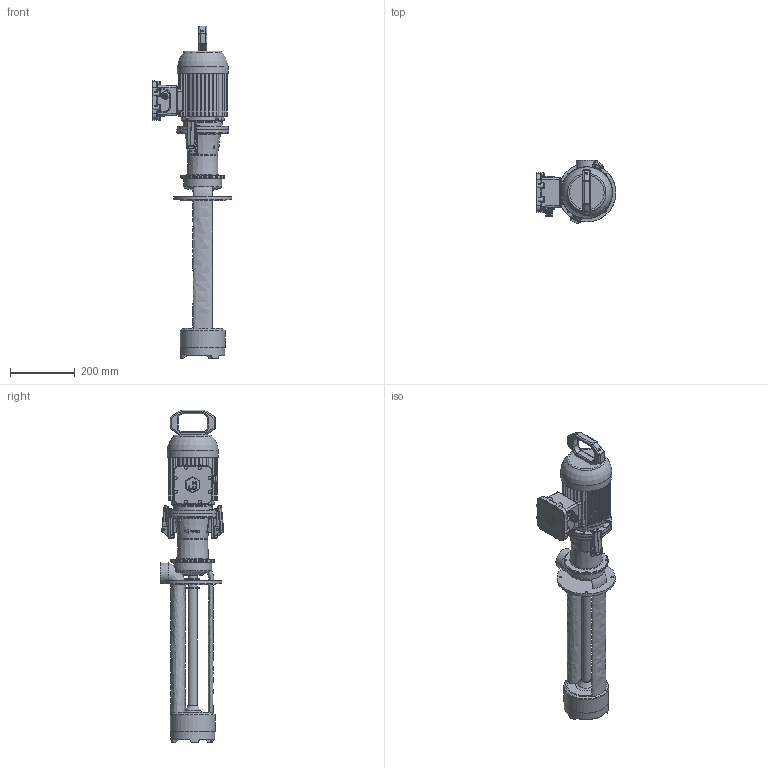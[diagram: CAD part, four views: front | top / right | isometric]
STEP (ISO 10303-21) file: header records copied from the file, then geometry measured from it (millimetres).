
FILE_DESCRIPTION(/* description */ ('Unknown'),/* implementation_level */ '2;1');
FILE_NAME(/* name */ 'EP EX 252-490',/* time_stamp */ '2025-06-03T09:18:46+03:00',/* author */ ('Unknown'),/* organization */ ('Unknown'),/* preprocessor_version */ 'ST-DEVELOPER v16.7',/* originating_system */ 'DEX',/* authorisation */ $);
FILE_SCHEMA (('AUTOMOTIVE_DESIGN {1 0 10303 214 3 1 1}'));
Length unit declared in the file: millimetre
Products named in the file (1): EP EX 252-490
Bounding box: 246.5 x 195.43 x 1026.45 mm (x, y, z)
Volume: 9010708.2 mm3; surface area: 809480.6 mm2
Topology: 1 solids, 22 shells, 2297 faces, 6058 edges, 3779 vertices
Faces by surface type: cylinder 802, plane 730, bspline 404, torus 201, cone 113, sphere 47
Full cylindrical faces by diameter (mm): 3 x12, 3.242 x16, 4 x10, 4.134 x24, 4.9 x4, 5 x90, 5.3 x4, 5.5 x2, 5.7 x8, 6 x8, 7 x8, 8 x3, 9.5 x8, 12 x1, 13 x2, 13.962 x1, 16 x1, 18.348 x1, 18.376 x5, 19 x1, 20 x2, 21.8 x2, 28 x1, 29 x3, 30 x1, 42 x3, 44 x1, 48 x1, 62 x1, 73 x1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
Entity records: 109777 total; most frequent: CARTESIAN_POINT 43445, ORIENTED_EDGE 10866, DIRECTION 9982, EDGE_CURVE 5433, AXIS2_PLACEMENT_3D 4017, VERTEX_POINT 3586, FACE_BOUND 2697, EDGE_LOOP 2689
